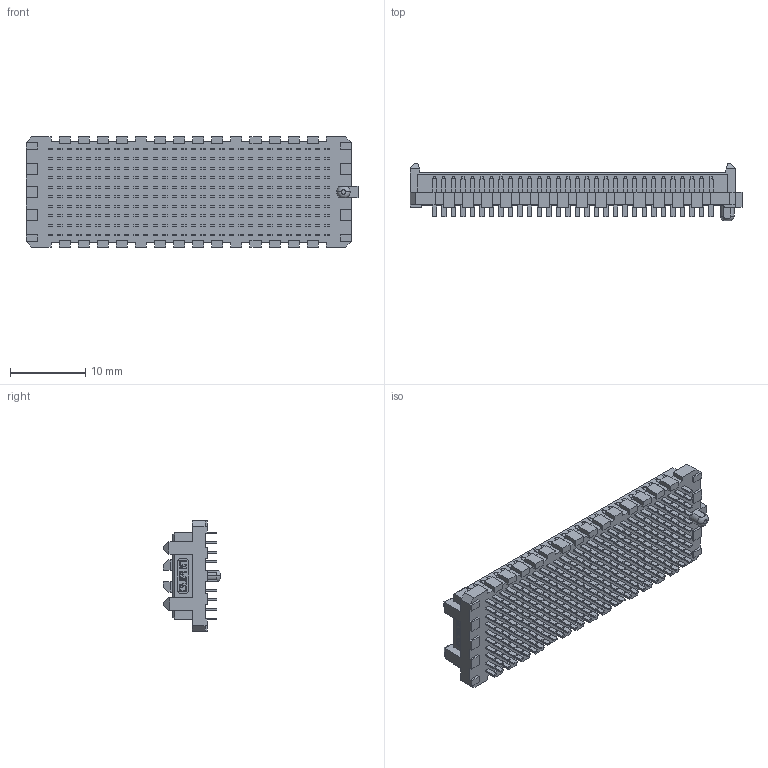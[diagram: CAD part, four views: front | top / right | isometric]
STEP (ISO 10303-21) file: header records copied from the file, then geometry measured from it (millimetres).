
FILE_DESCRIPTION (( 'STEP AP214' ), '1' );
FILE_NAME ('2322-10X30MB7PP1T.STEP', '2020-05-14T02:45:02', ( '' ), ( '' ), 'SwSTEP 2.0', 'SolidWorks 2011', '' );
FILE_SCHEMA (( 'AUTOMOTIVE_DESIGN' ));
Length unit declared in the file: millimetre
Products named in the file (1): 2322-10X30MB7PP1T
Bounding box: 44.17 x 7.62 x 14.68 mm (x, y, z)
Volume: 1878.2 mm3; surface area: 3429.5 mm2
Topology: 1 solids, 1 shells, 5575 faces, 15745 edges, 10485 vertices
Faces by surface type: plane 4014, cylinder 1559, torus 2
Entity records: 234279 total; most frequent: CARTESIAN_POINT 31832, ORIENTED_EDGE 31490, DIRECTION 30018, EDGE_CURVE 15745, VECTOR 12620, LINE 12620, VERTEX_POINT 10485, AXIS2_PLACEMENT_3D 8699
